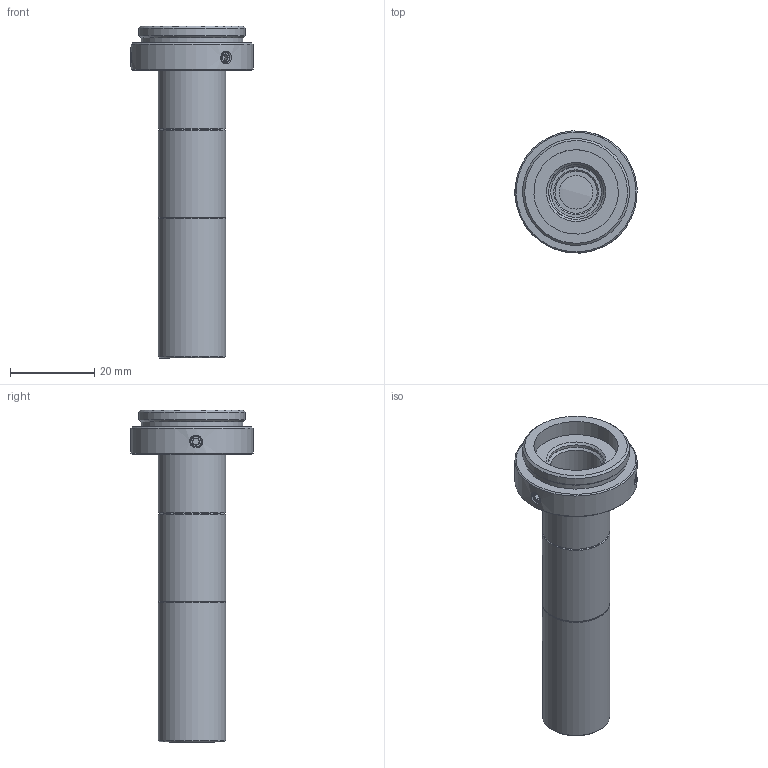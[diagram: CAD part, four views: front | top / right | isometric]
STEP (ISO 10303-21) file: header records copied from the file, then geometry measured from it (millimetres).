
FILE_DESCRIPTION(('STEP AP214'),'1');
FILE_NAME('RTK-1.5-110.stp','2026-03-17T01:49:31',(' '),(' '),'Spatial InterOp 3D',' ',' ');
FILE_SCHEMA(('AUTOMOTIVE_DESIGN { 1 0 10303 214 1 1 1 1 }'));
Length unit declared in the file: metre
Products named in the file (2): RTK-1.5-110; Component1
Assembly tree (1 placements, depth 2):
  RTK-1.5-110
    Component1
Bounding box: 28.97 x 28.93 x 78.7 mm (x, y, z)
Volume: 10409.2 mm3; surface area: 9109.1 mm2
Topology: 1 solids, 1 shells, 127 faces, 299 edges, 196 vertices
Faces by surface type: plane 48, cone 47, cylinder 27, bspline 3, sphere 2
Full cylindrical faces by diameter (mm): 2.5 x3, 8 x1, 10 x2, 12 x4, 13 x2, 13.4 x2, 13.5 x1, 13.7 x1, 14.2 x2, 16 x3, 20 x1, 24.12 x1, 25.32 x1, 29 x1
Entity records: 5686 total; most frequent: CARTESIAN_POINT 931, DIRECTION 540, ORIENTED_EDGE 446, STYLED_ITEM 350, PRESENTATION_STYLE_ASSIGNMENT 350, COLOUR_RGB 350, EDGE_CURVE 223, CURVE_STYLE 223
